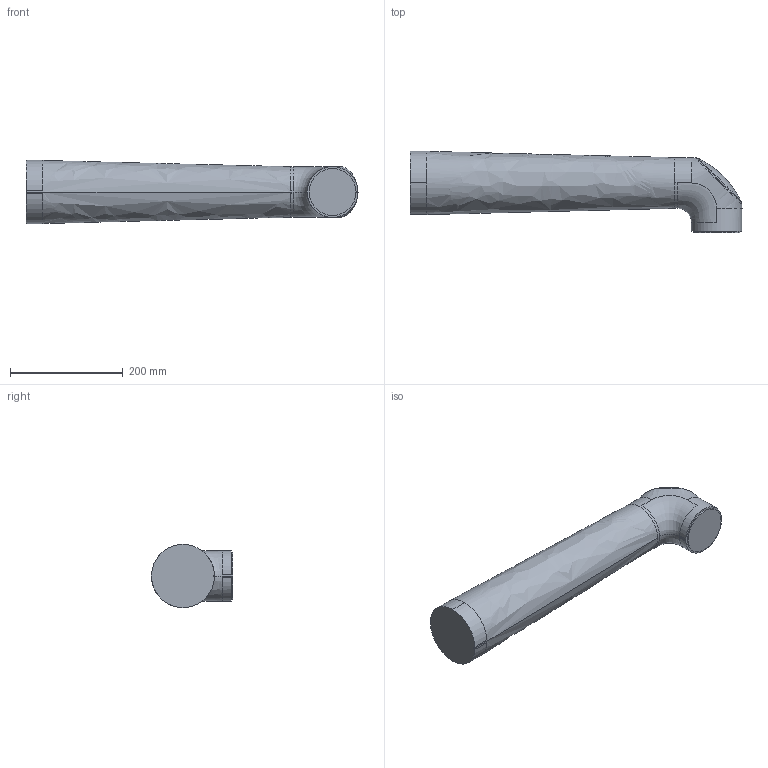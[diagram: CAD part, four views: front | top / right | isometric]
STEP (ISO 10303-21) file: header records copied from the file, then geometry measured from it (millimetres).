
FILE_DESCRIPTION (( 'STEP AP214' ), '1' );
FILE_NAME ('CRB1910_10kg-1520_OmniCore_rev00_Link4.step', '2026-03-26T03:33:23', ( '' ), ( '' ), 'SwSTEP 2.0', 'SolidWorks 2022', '' );
FILE_SCHEMA (( 'AUTOMOTIVE_DESIGN' ));
Length unit declared in the file: millimetre
Products named in the file (1): CRB1910_10kg-1520_OmniCore_rev00_Link4
Bounding box: 589.06 x 144.08 x 112 mm (x, y, z)
Volume: 4739323.8 mm3; surface area: 209000.5 mm2
Topology: 1 solids, 1 shells, 405 faces, 1069 edges, 697 vertices
Faces by surface type: bspline 358, plane 28, cylinder 17, cone 2
Entity records: 59313 total; most frequent: CARTESIAN_POINT 51875, ORIENTED_EDGE 2134, EDGE_CURVE 1067, B_SPLINE_CURVE_WITH_KNOTS 954, VERTEX_POINT 697, EDGE_LOOP 438, ADVANCED_FACE 405, FACE_OUTER_BOUND 405
